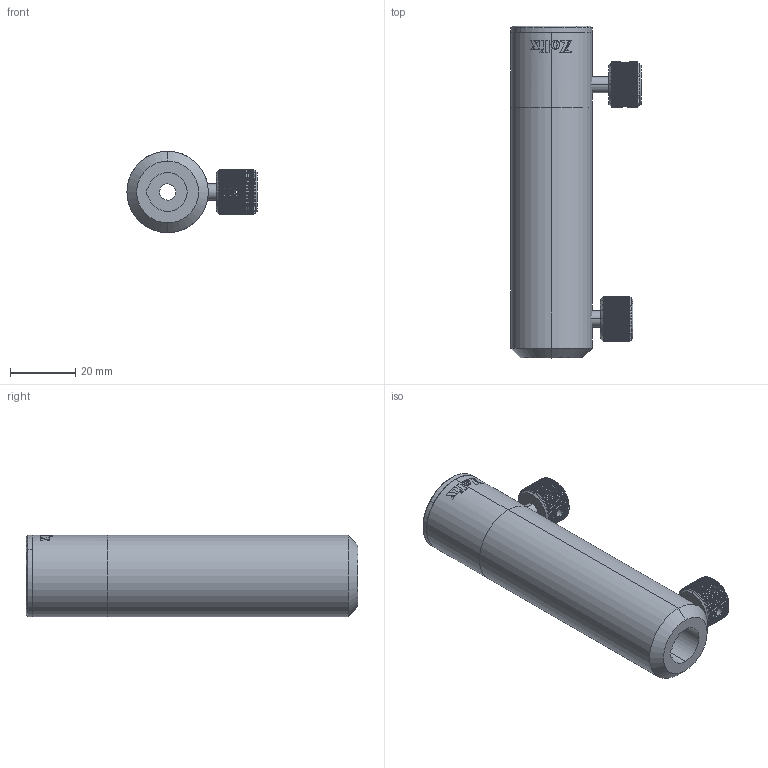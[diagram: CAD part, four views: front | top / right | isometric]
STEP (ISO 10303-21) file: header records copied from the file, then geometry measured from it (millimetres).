
FILE_DESCRIPTION (( 'STEP AP203' ), '1' );
FILE_NAME ('PHRP-3.step', '2019-05-09T09:07:05', ( '' ), ( '' ), 'SwSTEP 2.0', 'SolidWorks 2016', '' );
FILE_SCHEMA (( 'CONFIG_CONTROL_DESIGN' ));
Length unit declared in the file: millimetre
Products named in the file (1): PHRP-3
Bounding box: 40 x 102 x 25 mm (x, y, z)
Surface area: 13480.9 mm2 (no closed solid volume)
Topology: 0 solids, 10 shells, 681 faces, 2275 edges, 1601 vertices
Faces by surface type: plane 422, cylinder 242, cone 12, bspline 5
Entity records: 26086 total; most frequent: CARTESIAN_POINT 8198, ORIENTED_EDGE 4228, DIRECTION 2942, EDGE_CURVE 2275, VERTEX_POINT 1601, AXIS2_PLACEMENT_3D 1129, B_SPLINE_CURVE_WITH_KNOTS 1035, EDGE_LOOP 703
